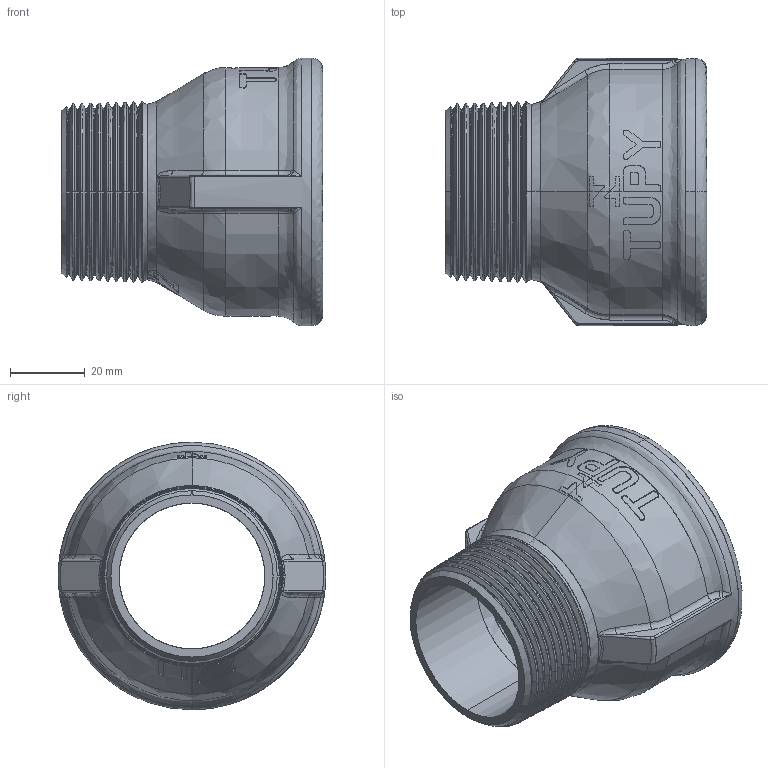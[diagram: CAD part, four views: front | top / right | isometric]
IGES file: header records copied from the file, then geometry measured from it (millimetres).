
Start section: SolidWorks IGES file using analytic representation for surfaces
Global section: file name: C:\Users\Joel Rosa\Desktop\Tubulação\12-35-OK\12-35-047.IGS; native system: SolidWorks 2011; preprocessor: SolidWorks 2011; author: Joel Rosa; date: 121209.031642; units: millimetre
Bounding box: 70 x 71.6 x 71.6 mm (x, y, z)
Surface area: 31235.5 mm2 (no closed solid volume)
Topology: 0 solids, 0 shells, 426 faces, 3747 edges, 3743 vertices
Faces by surface type: bspline 299, revolution 127
